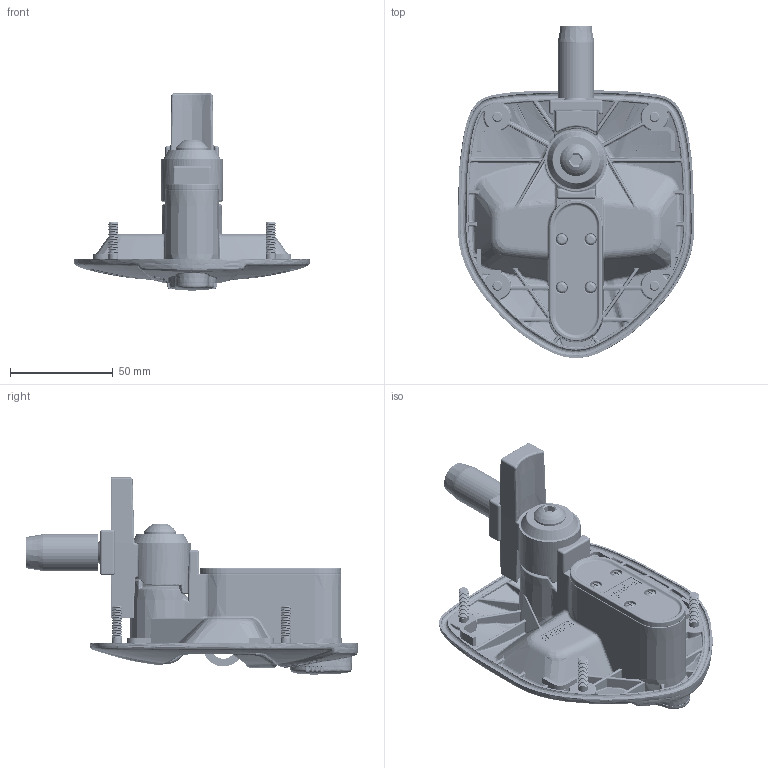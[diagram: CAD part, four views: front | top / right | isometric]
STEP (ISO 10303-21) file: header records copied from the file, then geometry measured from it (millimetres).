
FILE_DESCRIPTION((''),'2;1');
FILE_NAME('000_ASM','2024-06-11T08:53:35',('Administrator'),(''),'CREO PARAMETRIC BY PTC INC, 2019080','CREO PARAMETRIC BY PTC INC, 2019080','');
FILE_SCHEMA(('AUTOMOTIVE_DESIGN { 1 0 10303 214 1 1 1 1 }'));
Products named in the file (36): 3131710049004; 3121710049004; TT-SK1710-01_ASM_89; T-TG1710-02_67; T-DQ1710-01_50; T-XZ1710-01_32; T-XZ1710-02_11; T-TG1710-01_74; T-TH1710-03_13; T-SS1710-01_85; O-12X2_10; T-YB1710-02_16; T-YB1710-01_24; T-TG1710-03_19; T-LS1710-01_17; TT-SS1710-03_ASM_12_ASM; 3151100081101_1; LS-M6X16_12; 1710-1110-20_ASM_159_ASM; 000_ASM; T-NH1710-03_38; CSX1704341102_11; T-GZ1710-02_23; CTHH751341101_11; CSXH545621102_12; CSXH751621106_10; TT-SX1710-01_ASM_51_ASM; 3051710010104; 3061710081601; 3121710049005; LS-M3X8-GB_T823-2016_11; 50O00; 3169601349026; 2011710049004; 3031710012002
Assembly tree (47 placements, depth 4):
  000_ASM
    3131710049004
    3121710049004
    000_ASM
      1710-1110-20_ASM_159_ASM
        TT-SK1710-01_ASM_89
        T-TG1710-02_67
        T-DQ1710-01_50
        T-XZ1710-01_32
        T-XZ1710-02_11
        T-TG1710-01_74
        T-TH1710-03_13
        T-SS1710-01_85
        O-12X2_10
        T-YB1710-02_16
        T-YB1710-01_24
        T-TG1710-03_19
        T-LS1710-01_17
        TT-SS1710-03_ASM_12_ASM
        3151100081101_1
        LS-M6X16_12
    TT-SX1710-01_ASM_51_ASM
      T-NH1710-03_38
      CSX1704341102_11
      T-GZ1710-02_23
      CTHH751341101_11  x6
      CSXH545621102_12  x3
      CSXH751621106_10  x3
    3051710010104
    3061710081601
    3121710049005
    LS-M3X8-GB_T823-2016_11  x4
    50O00
    3169601349026
    2011710049004
    3031710012002
Bounding box: 114.71 x 161.15 x 95.75 mm (x, y, z)
Volume: 166014.3 mm3; surface area: 118921.7 mm2
Topology: 41 solids, 42 shells, 5662 faces, 13831 edges, 8273 vertices
Faces by surface type: bspline 1981, cylinder 1278, plane 1212, torus 464, cone 387, sphere 189, extrusion 151
Entity records: 326119 total; most frequent: CARTESIAN_POINT 198939, ORIENTED_EDGE 26200, DIRECTION 18962, EDGE_CURVE 13100, VERTEX_POINT 7839, AXIS2_PLACEMENT_3D 7578, EDGE_LOOP 5537, B_SPLINE_CURVE_WITH_KNOTS 5476
